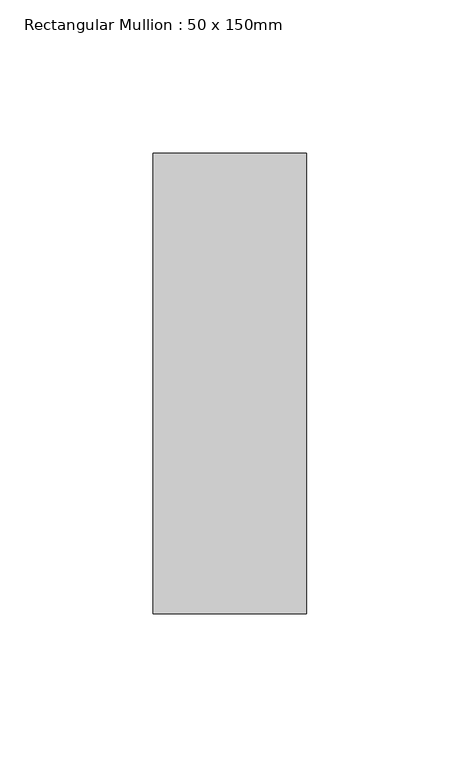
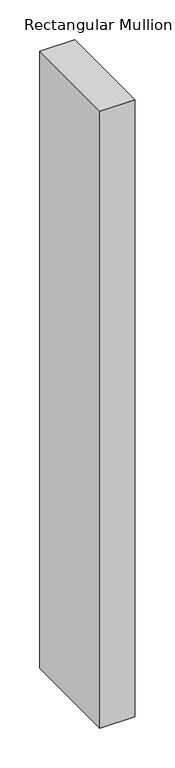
"""IFC4 building model written with IfcOpenShell, lengths in millimetres: member geometry, Rectangular Mullion : 50 x 150mm."""

from ifc_helpers import new_model, si_unit, frame, origin, place, context, project, spatial, polyline, outline, extrude, source, transform, mapped, element, save


def rectangular_mullion_50_x_150mm_bb29f1ad(model_context):
    return source(origin(), model_context, "Body", "SweptSolid", [
        extrude(outline(polyline([(0.0, 75.0), (0.0, -75.0), (-50.0, -75.0), (-50.0, 75.0), (0.0, 75.0)])), frame((0.0, 0.0, -941.6666668), z_axis=(0.0, 0.0, 1.0), x_axis=(1.0, 0.0, 0.0)), (0.0, 0.0, 1.0), 941.6666668),
    ])


if __name__ == "__main__":
    model = new_model("IFC4")
    model_context = context("Model", 3, world=origin())
    ifc_project = project(units=[si_unit("LENGTHUNIT", "METRE", prefix="MILLI")], contexts=[model_context])
    site = spatial("IfcSite", under=ifc_project)
    building = spatial("IfcBuilding", under=site)
    placement = place(None, origin())
    rectangular_mullion_50_x_150mm_shape = rectangular_mullion_50_x_150mm_bb29f1ad(model_context)
    element("IfcMember", 1, ObjectType="Rectangular Mullion : 50 x 150mm", at=placement, inside=building, context=model_context, shape_type="MappedRepresentation", body=[
        mapped(rectangular_mullion_50_x_150mm_shape, transform((0.0, 0.0, 0.0), x_axis=(1.0, 0.0, 0.0), y_axis=(0.0, 1.0, 0.0), z_axis=(0.0, 0.0, 1.0))),
    ])
    save(model, "model.ifc")
